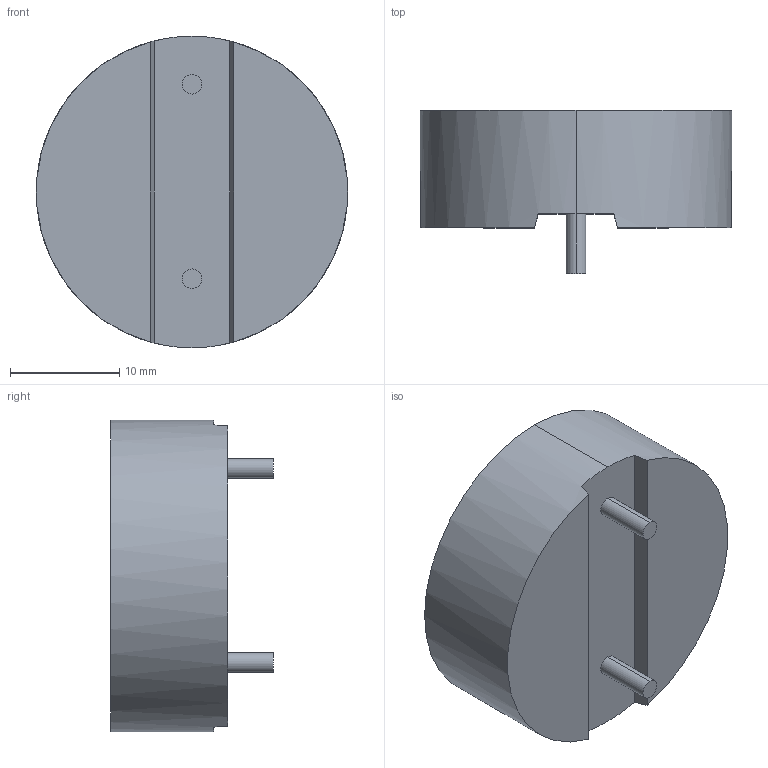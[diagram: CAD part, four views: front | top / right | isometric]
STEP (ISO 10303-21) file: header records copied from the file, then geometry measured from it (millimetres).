
FILE_DESCRIPTION (( 'STEP AP214' ), '1' );
FILE_NAME ('IHTH-1125KZ-5A 8.2uH.STEP', '2025-03-14T18:46:04', ( '' ), ( '' ), 'SwSTEP 2.0', 'SolidWorks 2024', '' );
FILE_SCHEMA (( 'AUTOMOTIVE_DESIGN' ));
Length unit declared in the file: inch
Products named in the file (1): IHTH-1125KZ-5A 8.2uH
Bounding box: 28.57 x 14.94 x 28.57 mm (x, y, z)
Volume: 6656.6 mm3; surface area: 2347.7 mm2
Topology: 1 solids, 1 shells, 202 faces, 525 edges, 350 vertices
Faces by surface type: plane 128, bspline 64, cylinder 10
Entity records: 9876 total; most frequent: CARTESIAN_POINT 5314, ORIENTED_EDGE 1050, DIRECTION 695, EDGE_CURVE 525, VECTOR 369, LINE 369, VERTEX_POINT 350, EDGE_LOOP 227
